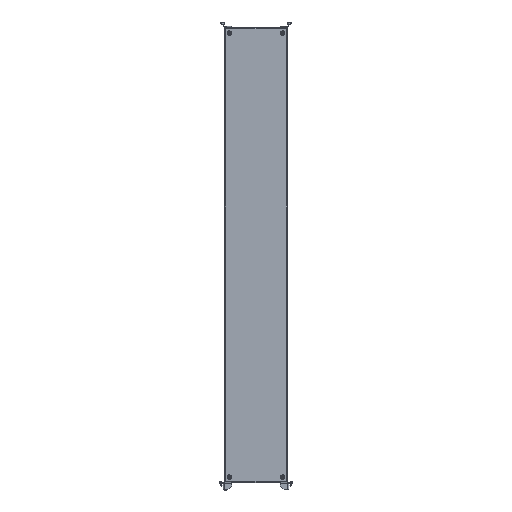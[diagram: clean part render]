
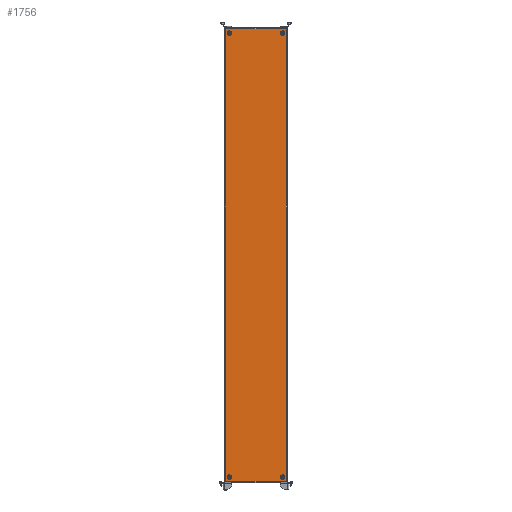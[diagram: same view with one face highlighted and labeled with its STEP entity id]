
A CAD part, top view. The second image highlights one B-rep face of the part: STEP entity #1756.
In plain terms, the highlighted planar face has unit normal (0, 0, 1).
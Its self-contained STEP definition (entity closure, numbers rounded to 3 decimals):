
#1756=ADVANCED_FACE('',(#9172,#9174,#9176,#9178,#9180),#9182,.T.);
#9172=FACE_BOUND('',#9173,.T.);
#9173=EDGE_LOOP('',(#16163,#16164,#16165,#16166));
#9174=FACE_BOUND('',#9175,.T.);
#9175=EDGE_LOOP('',(#16167));
#9176=FACE_BOUND('',#9177,.T.);
#9177=EDGE_LOOP('',(#16168));
#9178=FACE_BOUND('',#9179,.T.);
#9179=EDGE_LOOP('',(#16169));
#9180=FACE_BOUND('',#9181,.T.);
#9181=EDGE_LOOP('',(#16170));
#9182=PLANE('',#9183);
#9183=AXIS2_PLACEMENT_3D('',#9184,#9185,#9186);
#9184=CARTESIAN_POINT('',(0.,0.,2.));
#9185=DIRECTION('',(0.,0.,1.));
#9186=DIRECTION('',(1.,0.,0.));
#16163=ORIENTED_EDGE('',*,*,#19803,.T.);
#16164=ORIENTED_EDGE('',*,*,#19664,.T.);
#16165=ORIENTED_EDGE('',*,*,#19804,.T.);
#16166=ORIENTED_EDGE('',*,*,#19805,.T.);
#16167=ORIENTED_EDGE('',*,*,#19806,.T.);
#16168=ORIENTED_EDGE('',*,*,#19807,.T.);
#16169=ORIENTED_EDGE('',*,*,#19808,.T.);
#16170=ORIENTED_EDGE('',*,*,#19809,.T.);
#19664=EDGE_CURVE('',#21919,#21921,#21923,.T.);
#19803=EDGE_CURVE('',#22137,#21919,#22138,.T.);
#19804=EDGE_CURVE('',#21921,#22139,#22140,.T.);
#19805=EDGE_CURVE('',#22139,#22137,#22141,.T.);
#19806=EDGE_CURVE('',#22142,#22142,#22143,.F.);
#19807=EDGE_CURVE('',#22144,#22144,#22145,.F.);
#19808=EDGE_CURVE('',#22146,#22146,#22147,.F.);
#19809=EDGE_CURVE('',#22148,#22148,#22149,.F.);
#21919=VERTEX_POINT('',#27409);
#21921=VERTEX_POINT('',#27414);
#21923=LINE('',#27419,#27420);
#22137=VERTEX_POINT('',#27948);
#22138=LINE('',#27949,#27950);
#22139=VERTEX_POINT('',#27952);
#22140=LINE('',#27953,#27954);
#22141=LINE('',#27956,#27957);
#22142=VERTEX_POINT('',#27959);
#22143=CIRCLE('',#27960,10.);
#22144=VERTEX_POINT('',#27964);
#22145=CIRCLE('',#27965,10.);
#22146=VERTEX_POINT('',#27969);
#22147=CIRCLE('',#27970,10.);
#22148=VERTEX_POINT('',#27974);
#22149=CIRCLE('',#27975,10.);
#27409=CARTESIAN_POINT('',(4.6,2085.4,2.));
#27414=CARTESIAN_POINT('',(4.6,4.6,2.));
#27419=CARTESIAN_POINT('',(4.6,2085.4,2.));
#27420=VECTOR('',#27421,1.);
#27421=DIRECTION('',(0.,-1.,0.));
#27948=CARTESIAN_POINT('',(280.4,2085.4,2.));
#27949=CARTESIAN_POINT('',(280.4,2085.4,2.));
#27950=VECTOR('',#27951,1.);
#27951=DIRECTION('',(-1.,0.,0.));
#27952=CARTESIAN_POINT('',(280.4,4.6,2.));
#27953=CARTESIAN_POINT('',(4.6,4.6,2.));
#27954=VECTOR('',#27955,1.);
#27955=DIRECTION('',(1.,0.,0.));
#27956=CARTESIAN_POINT('',(280.4,4.6,2.));
#27957=VECTOR('',#27958,1.);
#27958=DIRECTION('',(0.,1.,0.));
#27959=CARTESIAN_POINT('',(30.,25.,2.));
#27960=AXIS2_PLACEMENT_3D('',#27961,#27962,#27963);
#27961=CARTESIAN_POINT('',(20.,25.,2.));
#27962=DIRECTION('',(0.,0.,1.));
#27963=DIRECTION('',(1.,0.,0.));
#27964=CARTESIAN_POINT('',(275.,2065.,2.));
#27965=AXIS2_PLACEMENT_3D('',#27966,#27967,#27968);
#27966=CARTESIAN_POINT('',(265.,2065.,2.));
#27967=DIRECTION('',(0.,0.,1.));
#27968=DIRECTION('',(1.,0.,0.));
#27969=CARTESIAN_POINT('',(30.,2065.,2.));
#27970=AXIS2_PLACEMENT_3D('',#27971,#27972,#27973);
#27971=CARTESIAN_POINT('',(20.,2065.,2.));
#27972=DIRECTION('',(0.,0.,1.));
#27973=DIRECTION('',(1.,0.,0.));
#27974=CARTESIAN_POINT('',(275.,25.,2.));
#27975=AXIS2_PLACEMENT_3D('',#27976,#27977,#27978);
#27976=CARTESIAN_POINT('',(265.,25.,2.));
#27977=DIRECTION('',(0.,0.,1.));
#27978=DIRECTION('',(1.,0.,0.));
